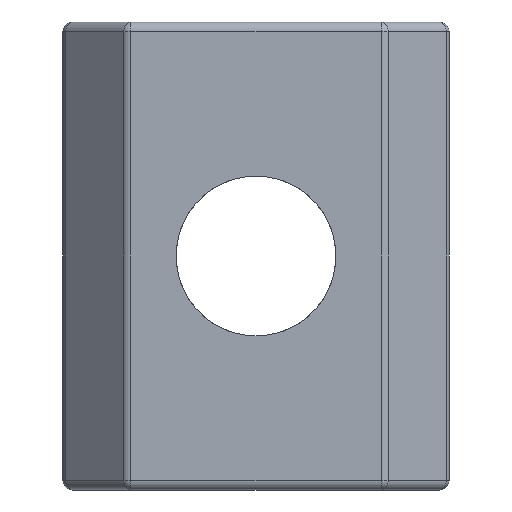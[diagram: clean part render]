
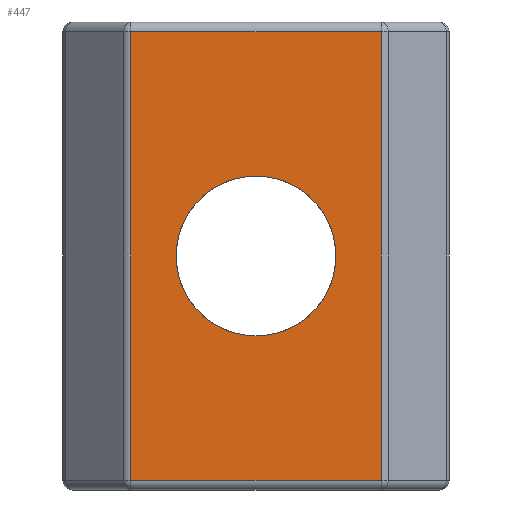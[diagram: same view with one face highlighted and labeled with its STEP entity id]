
A CAD part, front view. The second image highlights one B-rep face of the part: STEP entity #447.
In plain terms, the highlighted planar face has unit normal (0, -1, 0).
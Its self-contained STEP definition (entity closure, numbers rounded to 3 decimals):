
#167 = EDGE_CURVE ( 'NONE', #402, #1256, #813, .T. ) ;
#177 = CARTESIAN_POINT ( 'NONE',  ( -7.913, -6.533, -23.5 ) ) ;
#234 = EDGE_CURVE ( 'NONE', #2353, #1343, #240, .T. ) ;
#240 = CIRCLE ( 'NONE', #793, 4.1 ) ;
#285 = CARTESIAN_POINT ( 'NONE',  ( 5.14, -6.533, -23.5 ) ) ;
#402 = VERTEX_POINT ( 'NONE', #285 ) ;
#447 = ADVANCED_FACE ( 'NONE', ( #756, #549 ), #1562, .T. ) ;
#454 = DIRECTION ( 'NONE',  ( 0., -1., 0. ) ) ;
#494 = DIRECTION ( 'NONE',  ( -1., 0., 0. ) ) ;
#497 = VECTOR ( 'NONE', #944, 1000. ) ;
#513 = ORIENTED_EDGE ( 'NONE', *, *, #2180, .T. ) ;
#515 = DIRECTION ( 'NONE',  ( 0., 0., -1. ) ) ;
#536 = VERTEX_POINT ( 'NONE', #2330 ) ;
#539 = CARTESIAN_POINT ( 'NONE',  ( 5.14, -6.533, -0.5 ) ) ;
#549 = FACE_BOUND ( 'NONE', #1277, .T. ) ;
#698 = VECTOR ( 'NONE', #1869, 1000. ) ;
#756 = FACE_OUTER_BOUND ( 'NONE', #1788, .T. ) ;
#793 = AXIS2_PLACEMENT_3D ( 'NONE', #1736, #1195, #1761 ) ;
#800 = ORIENTED_EDGE ( 'NONE', *, *, #167, .T. ) ;
#813 = LINE ( 'NONE', #1860, #2276 ) ;
#885 = CARTESIAN_POINT ( 'NONE',  ( -1.283, -6.533, -12. ) ) ;
#923 = CARTESIAN_POINT ( 'NONE',  ( -7.705, -6.533, -24. ) ) ;
#944 = DIRECTION ( 'NONE',  ( 0., 0., -1. ) ) ;
#1011 = CARTESIAN_POINT ( 'NONE',  ( -7.913, -6.533, -24. ) ) ;
#1054 = ORIENTED_EDGE ( 'NONE', *, *, #1903, .T. ) ;
#1055 = ORIENTED_EDGE ( 'NONE', *, *, #1368, .T. ) ;
#1103 = AXIS2_PLACEMENT_3D ( 'NONE', #885, #1438, #515 ) ;
#1137 = ORIENTED_EDGE ( 'NONE', *, *, #234, .T. ) ;
#1195 = DIRECTION ( 'NONE',  ( 0., 1., 0. ) ) ;
#1256 = VERTEX_POINT ( 'NONE', #539 ) ;
#1268 = ORIENTED_EDGE ( 'NONE', *, *, #1806, .T. ) ;
#1277 = EDGE_LOOP ( 'NONE', ( #1054, #1137 ) ) ;
#1301 = CARTESIAN_POINT ( 'NONE',  ( -7.705, -6.533, -23.5 ) ) ;
#1325 = LINE ( 'NONE', #923, #497 ) ;
#1343 = VERTEX_POINT ( 'NONE', #1618 ) ;
#1351 = LINE ( 'NONE', #2326, #1382 ) ;
#1368 = EDGE_CURVE ( 'NONE', #536, #2169, #1325, .T. ) ;
#1382 = VECTOR ( 'NONE', #494, 1000. ) ;
#1438 = DIRECTION ( 'NONE',  ( 0., 1., 0. ) ) ;
#1494 = LINE ( 'NONE', #177, #698 ) ;
#1500 = DIRECTION ( 'NONE',  ( 0., 0., 1. ) ) ;
#1562 = PLANE ( 'NONE',  #2170 ) ;
#1618 = CARTESIAN_POINT ( 'NONE',  ( -1.283, -6.533, -7.9 ) ) ;
#1693 = CIRCLE ( 'NONE', #1103, 4.1 ) ;
#1713 = CARTESIAN_POINT ( 'NONE',  ( -1.283, -6.533, -16.1 ) ) ;
#1736 = CARTESIAN_POINT ( 'NONE',  ( -1.283, -6.533, -12. ) ) ;
#1761 = DIRECTION ( 'NONE',  ( 0., 0., -1. ) ) ;
#1788 = EDGE_LOOP ( 'NONE', ( #1055, #513, #800, #1268 ) ) ;
#1806 = EDGE_CURVE ( 'NONE', #1256, #536, #1351, .T. ) ;
#1860 = CARTESIAN_POINT ( 'NONE',  ( 5.14, -6.533, -24. ) ) ;
#1869 = DIRECTION ( 'NONE',  ( 1., 0., 0. ) ) ;
#1876 = DIRECTION ( 'NONE',  ( 0., 0., -1. ) ) ;
#1903 = EDGE_CURVE ( 'NONE', #1343, #2353, #1693, .T. ) ;
#2169 = VERTEX_POINT ( 'NONE', #1301 ) ;
#2170 = AXIS2_PLACEMENT_3D ( 'NONE', #1011, #454, #1876 ) ;
#2180 = EDGE_CURVE ( 'NONE', #2169, #402, #1494, .T. ) ;
#2276 = VECTOR ( 'NONE', #1500, 1000. ) ;
#2326 = CARTESIAN_POINT ( 'NONE',  ( -7.913, -6.533, -0.5 ) ) ;
#2330 = CARTESIAN_POINT ( 'NONE',  ( -7.705, -6.533, -0.5 ) ) ;
#2353 = VERTEX_POINT ( 'NONE', #1713 ) ;
